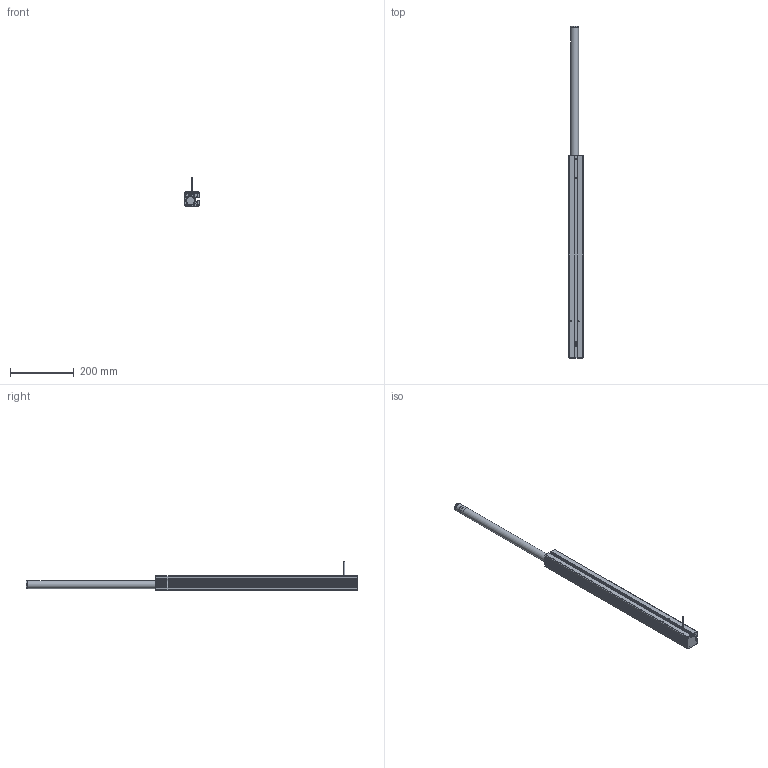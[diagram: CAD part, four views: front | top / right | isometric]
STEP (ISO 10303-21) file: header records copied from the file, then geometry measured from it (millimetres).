
FILE_DESCRIPTION(/* description */ ('Unknown'),/* implementation_level */ '2;1');
FILE_NAME(/* name */ '306.00454_04_ausgefahren',/* time_stamp */ '2019-06-20T13:52:15+02:00',/* author */ ('Unknown'),/* organization */ ('Unknown'),/* preprocessor_version */ 'ST-DEVELOPER v16.7',/* originating_system */ 'DEX',/* authorisation */ $);
FILE_SCHEMA (('AUTOMOTIVE_DESIGN {1 0 10303 214 3 1 1}'));
Length unit declared in the file: millimetre
Products named in the file (13): 306.00454; 142.00014; 119.00224; 122.00005; 142.00020; 113.00002_70mm; 124.00125; 128.00040; 106.00424_oa_0; 109.00404_oa_1; 115.00008_oa_2; 123.00104; 125.00051
Assembly tree (16 placements, depth 4):
  306.00454
    142.00014  x2
    119.00224
    122.00005
    142.00020  x4
    113.00002_70mm
    124.00125
    128.00040
    106.00424_oa_0
      109.00404_oa_1
        115.00008_oa_2
      123.00104
      125.00051
Bounding box: 45 x 1042 x 90 mm (x, y, z)
Volume: 534436.5 mm3; surface area: 444557.3 mm2
Topology: 13 solids, 13 shells, 1253 faces, 3595 edges, 2312 vertices
Faces by surface type: cylinder 583, plane 517, bspline 44, torus 42, cone 39, sphere 28
Full cylindrical faces by diameter (mm): 2.2 x1, 2.5 x12, 3 x4, 4 x10, 6.647 x1, 8 x1, 8.376 x2, 11.5 x1, 16 x1, 17.3 x1, 19 x1, 20.8 x3, 21 x1, 24 x1, 25 x4, 30 x2
Entity records: 41206 total; most frequent: CARTESIAN_POINT 8992, ORIENTED_EDGE 6794, DIRECTION 6584, EDGE_CURVE 3397, AXIS2_PLACEMENT_3D 2364, VERTEX_POINT 2231, LINE 1856, VECTOR 1856
